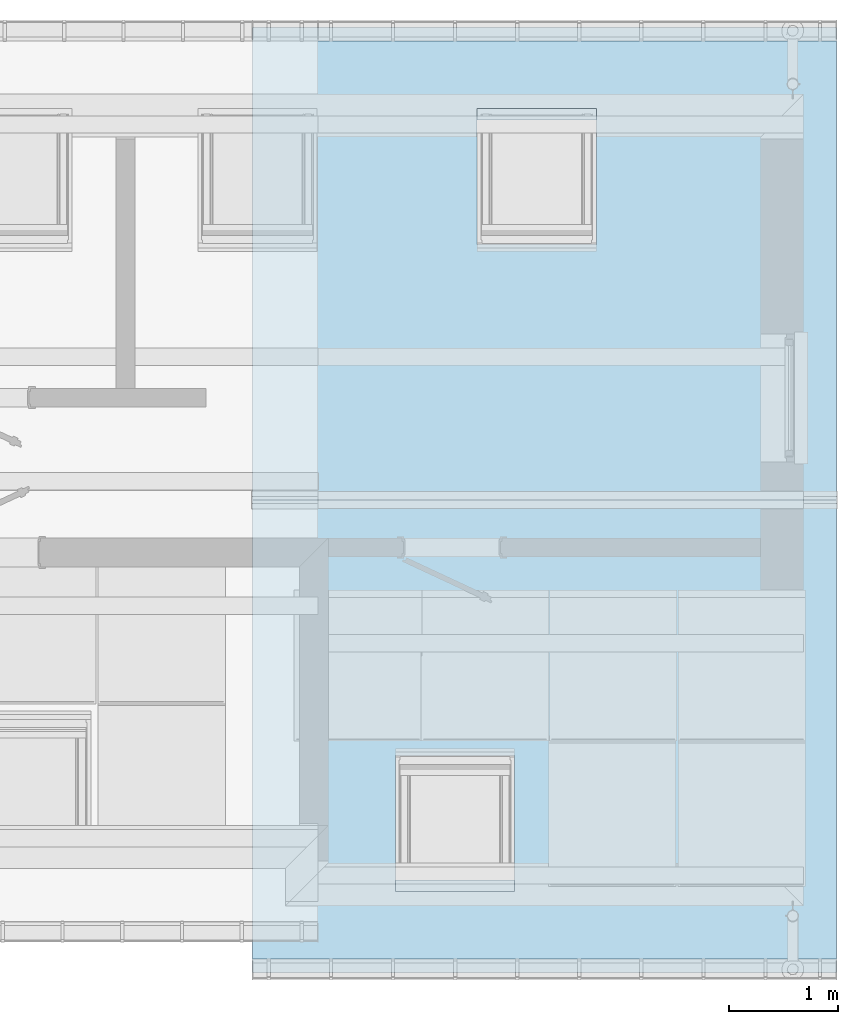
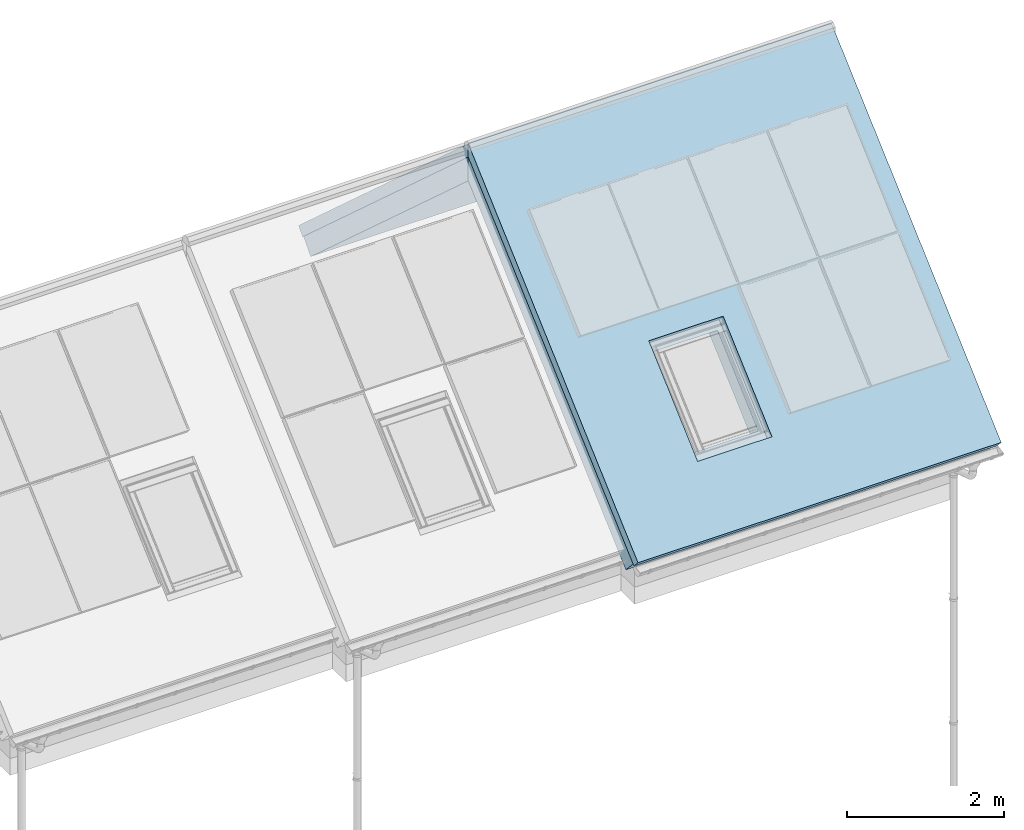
# One storey, part 5 of 43: 4 slabs, 4 openings, 1 element without a shape of its own.
"""IFC2X3 building model written with IfcOpenShell, lengths in millimetres."""

from ifc_helpers import new_model, si_unit, frame, origin_with_axes, place, context, project, spatial, faceted_brep, element, aggregate, save


model = new_model("IFC2X3")

# Units and contexts
model_context = context("Model", 3, world=origin_with_axes())
ifc_project = project(units=[si_unit("LENGTHUNIT", "METRE", prefix="MILLI")], contexts=[model_context])

# Site, building, storey
site_placement = place(None, origin_with_axes())
site = spatial("IfcSite", under=ifc_project, at=site_placement, Name="Site", CompositionType="ELEMENT")
building_placement = place(site_placement, origin_with_axes())
building = spatial("IfcBuilding", under=site, at=building_placement, Name="?", CompositionType="ELEMENT")
storey_placement = place(building_placement, frame((0.0, 0.0, 5938.0), z_axis=(0.0, 0.0, 1.0), x_axis=(1.0, 0.0, 0.0)))
storey = spatial("IfcBuildingStorey", under=building, at=storey_placement, Name="Dachgeschoß", CompositionType="ELEMENT", Elevation=5938.0)

# Roof, slabs, openings
roof_placement = place(None, origin_with_axes())
roof = element("IfcRoof", 1, at=roof_placement, inside=storey, Name="Dach01", ShapeType="NOTDEFINED")
slab_1_placement = place(roof_placement, frame((18300.0, 0.0, 6767.55029296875), z_axis=(0.0, 0.669130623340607, 0.743144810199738), x_axis=(-1.00000000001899, 0.0, 0.0)))
slab_1 = element("IfcSlab", 2, at=slab_1_placement, Name="DAFL_Rafter", PredefinedType="ROOF", context=model_context, shape_type="Brep", body=[
    faceted_brep([(5050.01201987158, 5005.75400379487, 0.000162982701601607), (-300.000012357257, 5005.75400379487, 0.000162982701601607), (-299.999837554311, 5253.36436260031, 274.999313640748), (5050.01180472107, 5253.36436260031, 274.999313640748), (5050.00008597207, -403.690063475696, 0.000162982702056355), (5050.01201987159, 5005.75400379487, 0.000162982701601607), (5050.01180472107, 5253.36436260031, 274.999313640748), (5049.99932456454, -403.688601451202, 274.999789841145), (-300.007650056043, -403.690063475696, 0.000162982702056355), (5050.00008597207, -403.690063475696, 0.000162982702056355), (5049.99932456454, -403.688601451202, 274.999789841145), (-300.007824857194, -403.688601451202, 274.999789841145), (-300.000012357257, 5005.75400379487, 0.000162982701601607), (-300.007650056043, -403.690063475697, 0.000162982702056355), (-300.007824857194, -403.688601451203, 274.999789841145), (-299.99983755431, 5253.36436260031, 274.999313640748), (5050.01180472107, 5253.36436260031, 274.999313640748), (-299.99983755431, 5253.36436260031, 274.999313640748), (-300.007824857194, -403.688601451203, 274.999789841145), (5049.99932456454, -403.688601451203, 274.999789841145), (5050.01201987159, 5005.75400379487, 0.000162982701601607), (5050.00008597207, -403.690063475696, 0.000162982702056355), (-300.007650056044, -403.690063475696, 0.000162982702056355), (-300.000012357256, 5005.75400379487, 0.000162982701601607)], [[[0, 1, 2, 3]], [[4, 5, 6, 7]], [[8, 9, 10, 11]], [[12, 13, 14, 15]], [[16, 17, 18, 19]], [[20, 21, 22, 23]]]),
])
opening_1_placement = place(slab_1_placement, frame((1975.99999996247, 2116.30575787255, 274.999856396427), z_axis=(0.0, -1.00000000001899, 0.0), x_axis=(1.00000000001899, 0.0, 0.0)))
element("IfcOpeningElement", 3, at=opening_1_placement, cuts=slab_1, Name="DAFL_Rafter|DF01", context=model_context, shape_type="Brep", body=[
    faceted_brep([(940.0, -285.000213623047, -316.529153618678), (940.0, -285.000213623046, 1400.00054613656), (-0.00269898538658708, -285.000213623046, 1400.00050077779), (2.37264430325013e-10, -285.000213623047, -316.529153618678), (940.0, -285.000213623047, -316.529153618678), (2.37150743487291e-10, -285.000213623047, -316.529153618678), (-0.000745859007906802, 10.0002851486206, 11.1006030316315), (940.0, 10.0002851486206, 11.1006030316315), (940.0, -285.000213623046, 1400.00054613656), (940.0, -285.000213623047, -316.529153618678), (940.0, 10.0002851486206, 11.1006030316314), (940.0, 10.0002851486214, 1399.99560541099), (-0.00269898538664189, -285.000213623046, 1400.00050077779), (940.0, -285.000213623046, 1400.00054613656), (940.0, 10.0002851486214, 1399.99560541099), (-0.00292968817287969, 10.0002851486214, 1399.99556005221), (2.37238861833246e-10, -285.000213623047, -316.529153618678), (-0.00269898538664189, -285.000213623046, 1400.00050077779), (-0.00292968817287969, 10.0002851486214, 1399.99556005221), (-0.000745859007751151, 10.0002851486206, 11.1006030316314), (940.0, 10.0002851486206, 11.1006030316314), (-0.000745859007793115, 10.0002851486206, 11.1006030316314), (-0.00292968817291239, 10.0002851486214, 1399.99556005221), (940.0, 10.0002851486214, 1399.99560541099)], [[[0, 1, 2, 3]], [[4, 5, 6, 7]], [[8, 9, 10, 11]], [[12, 13, 14, 15]], [[16, 17, 18, 19]], [[20, 21, 22, 23]]]),
])
slab_2_placement = place(roof_placement, frame((18300.0, 0.0, 6767.55029296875), z_axis=(0.0, 0.669130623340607, 0.743144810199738), x_axis=(-1.00000000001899, 0.0, 0.0)))
slab_2 = element("IfcSlab", 4, at=slab_2_placement, Name="DAFL_Tile", PredefinedType="ROOF", context=model_context, shape_type="Brep", body=[
    faceted_brep([(5049.99206221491, 5253.36436260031, 274.999313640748), (-299.999990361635, 5253.36436260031, 274.999313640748), (-299.999706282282, 5392.92709179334, 429.999420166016), (5049.9919675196, 5392.92709179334, 429.999420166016), (5049.9997800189, -433.69600892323, 274.999792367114), (5049.99206221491, 5253.36436260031, 274.999313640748), (5049.9919675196, 5392.92709179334, 429.999420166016), (5049.99987471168, -433.688937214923, 429.999420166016), (-300.023143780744, -433.696172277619, 274.999792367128), (5049.9997800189, -433.69600892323, 274.999792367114), (5049.99987471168, -433.688937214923, 429.999420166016), (-300.023427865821, -433.689100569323, 429.999420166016), (-299.999990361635, 5253.36436260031, 274.999313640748), (-300.023143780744, -433.696172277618, 274.999792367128), (-300.023427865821, -433.689100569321, 429.999420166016), (-299.999706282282, 5392.92709179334, 429.999420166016), (5049.9919675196, 5392.92709179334, 429.999420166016), (-299.999706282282, 5392.92709179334, 429.999420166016), (-300.023427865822, -433.689100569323, 429.999420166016), (5049.99987471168, -433.688937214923, 429.999420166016), (5049.99206221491, 5253.36436260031, 274.999313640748), (5049.9997800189, -433.69600892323, 274.999792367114), (-300.023143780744, -433.696172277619, 274.999792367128), (-299.999990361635, 5253.36436260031, 274.999313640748)], [[[0, 1, 2, 3]], [[4, 5, 6, 7]], [[8, 9, 10, 11]], [[12, 13, 14, 15]], [[16, 17, 18, 19]], [[20, 21, 22, 23]]]),
])
opening_2_placement = place(slab_2_placement, frame((1975.99999996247, 2116.30575787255, 274.999856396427), z_axis=(0.0, -1.00000000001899, 0.0), x_axis=(1.00000000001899, 0.0, 0.0)))
element("IfcOpeningElement", 5, at=opening_2_placement, cuts=slab_2, Name="DAFL_Tile|DF01", context=model_context, shape_type="Brep", body=[
    faceted_brep([(1016.99802094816, -9.99971485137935, -126.998050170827), (1016.99997407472, -9.99971485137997, 1549.00077233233), (-76.9951157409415, -9.99971485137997, 1549.00079784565), (-76.9999985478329, -9.99971485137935, -126.998095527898), (1016.99802094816, -9.99971485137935, -126.998050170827), (-76.9999985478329, -9.99971485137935, -126.998095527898), (-76.9990219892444, 164.999801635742, -126.99462959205), (1016.99802094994, 164.999801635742, -126.99458423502), (1016.99997407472, -9.99971485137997, 1549.00077233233), (1016.99802094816, -9.99971485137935, -126.998050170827), (1016.99802094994, 164.999801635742, -126.99458423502), (1016.99997407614, 164.999801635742, 1549.00393138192), (-76.9951157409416, -9.99971485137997, 1549.00079784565), (1016.99997407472, -9.99971485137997, 1549.00077233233), (1016.99997407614, 164.999801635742, 1549.00393138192), (-76.9941391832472, 164.999801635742, 1549.00395689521), (-76.9999985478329, -9.99971485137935, -126.998095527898), (-76.9951157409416, -9.99971485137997, 1549.00079784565), (-76.9941391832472, 164.999801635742, 1549.00395689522), (-76.9990219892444, 164.999801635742, -126.99462959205), (1016.99802094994, 164.999801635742, -126.99458423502), (-76.9990219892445, 164.999801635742, -126.99462959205), (-76.9941391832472, 164.999801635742, 1549.00395689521), (1016.99997407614, 164.999801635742, 1549.00393138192)], [[[0, 1, 2, 3]], [[4, 5, 6, 7]], [[8, 9, 10, 11]], [[12, 13, 14, 15]], [[16, 17, 18, 19]], [[20, 21, 22, 23]]]),
])
slab_3_placement = place(roof_placement, frame((13550.0, -7440.0, 6767.55029296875), z_axis=(0.0, -0.669130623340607, 0.743144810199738), x_axis=(1.00000000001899, 0.0, 0.0)))
slab_3 = element("IfcSlab", 6, at=slab_3_placement, Name="DAFL_Rafter", PredefinedType="ROOF", context=model_context, shape_type="Brep", body=[
    faceted_brep([(5050.00755600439, 5005.75400379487, 0.000162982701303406), (-300.000006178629, 5005.75400379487, 0.000162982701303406), (-299.999918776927, 5253.36500807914, 275.000030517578), (5050.00773080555, 5253.36500807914, 275.000030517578), (5049.99991830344, -403.690063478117, -0.000292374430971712), (5050.00755600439, 5005.75400379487, 0.000162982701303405), (5050.00773080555, 5253.36500807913, 275.000030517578), (5049.99974349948, -403.688601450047, 275.000030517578), (-300.003825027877, -403.690063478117, -0.000292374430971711), (5049.99991830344, -403.690063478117, -0.000292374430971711), (5049.99974349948, -403.688601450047, 275.000030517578), (-300.003912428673, -403.688601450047, 275.000030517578), (-300.000006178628, 5005.75400379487, 0.000162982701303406), (-300.003825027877, -403.690063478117, -0.000292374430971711), (-300.003912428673, -403.688601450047, 275.000030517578), (-299.999918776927, 5253.36500807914, 275.000030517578), (5050.00773080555, 5253.36500807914, 275.000030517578), (-299.999918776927, 5253.36500807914, 275.000030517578), (-300.003912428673, -403.688601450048, 275.000030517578), (5049.99974349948, -403.688601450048, 275.000030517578), (5050.00755600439, 5005.75400379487, 0.000162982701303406), (5049.99991830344, -403.690063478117, -0.000292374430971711), (-300.003825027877, -403.690063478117, -0.000292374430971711), (-300.000006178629, 5005.75400379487, 0.000162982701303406)], [[[0, 1, 2, 3]], [[4, 5, 6, 7]], [[8, 9, 10, 11]], [[12, 13, 14, 15]], [[16, 17, 18, 19]], [[20, 21, 22, 23]]]),
])
opening_3_placement = place(slab_3_placement, frame((1084.99999997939, 2116.30584858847, 274.999774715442), z_axis=(0.0, -1.00000000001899, 0.0), x_axis=(1.00000000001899, 0.0, 0.0)))
element("IfcOpeningElement", 7, at=opening_3_placement, cuts=slab_3, Name="DAFL_Rafter|DF02", context=model_context, shape_type="Brep", body=[
    faceted_brep([(939.998402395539, -284.999938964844, -316.528848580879), (940.000021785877, -284.999938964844, 1400.00080389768), (-0.00161939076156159, -284.999938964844, 1400.00080389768), (-3.25826476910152e-10, -284.999938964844, -316.528848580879), (939.998402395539, -284.999938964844, -316.528848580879), (-3.25940163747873e-10, -284.999938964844, -316.528848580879), (-0.000642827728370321, 10.0000724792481, 11.1003668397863), (939.999045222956, 10.0000724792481, 11.1003668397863), (940.000021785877, -284.999938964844, 1400.00080389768), (939.998402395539, -284.999938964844, -316.528848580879), (939.999045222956, 10.000072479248, 11.1003668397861), (940.000355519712, 10.0000724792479, 1399.99542306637), (-0.0016193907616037, -284.999938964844, 1400.00080389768), (940.000021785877, -284.999938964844, 1400.00080389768), (940.000355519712, 10.0000724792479, 1399.99542306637), (-0.00195312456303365, 10.0000724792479, 1399.99542306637), (-3.25789397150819e-10, -284.999938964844, -316.528848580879), (-0.0016193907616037, -284.999938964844, 1400.00080389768), (-0.00195312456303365, 10.0000724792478, 1399.99542306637), (-0.000642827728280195, 10.000072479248, 11.1003668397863), (939.999045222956, 10.000072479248, 11.1003668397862), (-0.000642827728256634, 10.000072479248, 11.1003668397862), (-0.0019531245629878, 10.0000724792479, 1399.99542306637), (940.000355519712, 10.0000724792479, 1399.99542306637)], [[[0, 1, 2, 3]], [[4, 5, 6, 7]], [[8, 9, 10, 11]], [[12, 13, 14, 15]], [[16, 17, 18, 19]], [[20, 21, 22, 23]]]),
])
slab_4_placement = place(roof_placement, frame((13550.0, -7440.0, 6767.55029296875), z_axis=(0.0, -0.669130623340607, 0.743144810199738), x_axis=(1.00000000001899, 0.0, 0.0)))
slab_4 = element("IfcSlab", 8, at=slab_4_placement, Name="DAFL_Tile", PredefinedType="ROOF", context=model_context, shape_type="Brep", body=[
    faceted_brep([(5050.01364698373, 5253.36499408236, 275.000014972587), (-299.999996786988, 5253.36499408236, 275.000014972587), (-299.999902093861, 5392.92774785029, 430.000148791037), (5050.01381270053, 5392.92774785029, 430.000148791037), (5050.00014082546, -433.69648351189, 274.999536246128), (5050.01364698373, 5253.36499408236, 275.000014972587), (5050.01381270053, 5392.92774785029, 430.000148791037), (5049.99997511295, -433.689248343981, 429.999658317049), (-300.007714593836, -433.69648351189, 274.999536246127), (5050.00014082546, -433.69648351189, 274.999536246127), (5049.99997511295, -433.689248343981, 429.999658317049), (-300.007809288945, -433.689248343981, 429.999658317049), (-299.999996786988, 5253.36499408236, 275.000014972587), (-300.007714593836, -433.69648351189, 274.999536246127), (-300.007809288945, -433.689248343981, 429.999658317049), (-299.999902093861, 5392.92774785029, 430.000148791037), (5050.01381270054, 5392.92774785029, 430.000148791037), (-299.99990209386, 5392.92774785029, 430.000148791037), (-300.007809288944, -433.689248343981, 429.999658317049), (5049.99997511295, -433.689248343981, 429.999658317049), (5050.01364698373, 5253.36499408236, 275.000014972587), (5050.00014082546, -433.69648351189, 274.999536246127), (-300.007714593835, -433.69648351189, 274.999536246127), (-299.999996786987, 5253.36499408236, 275.000014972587)], [[[0, 1, 2, 3]], [[4, 5, 6, 7]], [[8, 9, 10, 11]], [[12, 13, 14, 15]], [[16, 17, 18, 19]], [[20, 21, 22, 23]]]),
])
opening_4_placement = place(slab_4_placement, frame((1084.99999997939, 2116.30584858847, 274.999774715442), z_axis=(0.0, -1.00000000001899, 0.0), x_axis=(1.00000000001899, 0.0, 0.0)))
element("IfcOpeningElement", 9, at=opening_4_placement, cuts=slab_4, Name="DAFL_Tile|DF02", context=model_context, shape_type="Brep", body=[
    faceted_brep([(1017.00339968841, -9.99992752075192, -126.997774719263), (1016.9999817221, -9.99992752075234, 1549.00117116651), (-76.9965790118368, -9.99992752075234, 1549.00117116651), (-76.9999969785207, -9.99992752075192, -126.997774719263), (1017.00339968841, -9.99992752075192, -126.997774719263), (-76.9999969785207, -9.99992752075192, -126.997774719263), (-76.9995086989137, 165.000076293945, -126.995461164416), (1017.00291140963, 165.000076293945, -126.995461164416), (1016.9999817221, -9.99992752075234, 1549.00117116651), (1017.0033996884, -9.99992752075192, -126.997774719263), (1017.00291140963, 165.000076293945, -126.995461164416), (1016.99949344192, 165.000076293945, 1549.00417430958), (-76.9965790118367, -9.99992752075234, 1549.00117116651), (1016.9999817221, -9.99992752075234, 1549.00117116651), (1016.99949344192, 165.000076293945, 1549.00417430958), (-76.9960907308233, 165.000076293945, 1549.00417430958), (-76.9999969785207, -9.99992752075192, -126.997774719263), (-76.9965790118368, -9.99992752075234, 1549.00117116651), (-76.9960907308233, 165.000076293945, 1549.00417430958), (-76.9995086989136, 165.000076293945, -126.995461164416), (1017.00291140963, 165.000076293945, -126.995461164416), (-76.9995086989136, 165.000076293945, -126.995461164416), (-76.9960907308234, 165.000076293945, 1549.00417430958), (1016.99949344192, 165.000076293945, 1549.00417430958)], [[[0, 1, 2, 3]], [[4, 5, 6, 7]], [[8, 9, 10, 11]], [[12, 13, 14, 15]], [[16, 17, 18, 19]], [[20, 21, 22, 23]]]),
])
aggregate(roof, [slab_1, slab_2, slab_3, slab_4])

save(model, "model.ifc")
